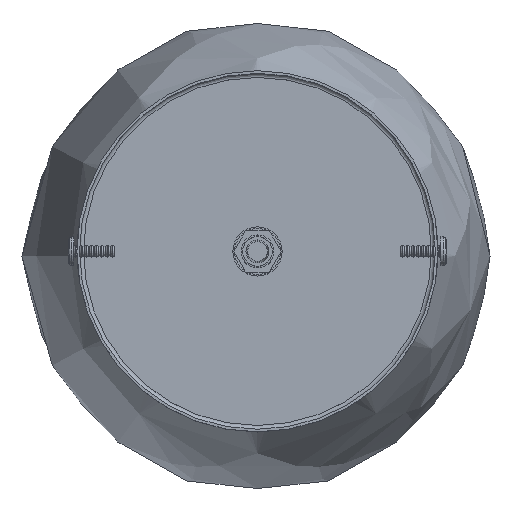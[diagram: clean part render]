
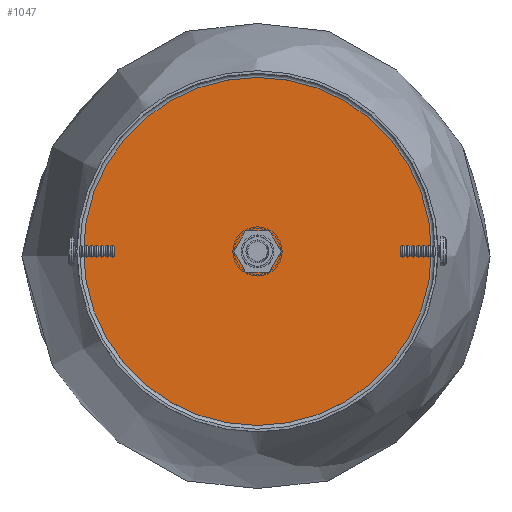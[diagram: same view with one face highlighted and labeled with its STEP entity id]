
A CAD part, top view. The second image highlights one B-rep face of the part: STEP entity #1047.
In plain terms, the highlighted planar face has unit normal (0, 0, 1).
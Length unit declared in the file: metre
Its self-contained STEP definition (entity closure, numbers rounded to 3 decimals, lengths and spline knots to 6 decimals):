
#1047 = ADVANCED_FACE( '', ( #1718, #1719 ), #1720, .T. );
#1718 = FACE_OUTER_BOUND( '', #2764, .T. );
#1719 = FACE_BOUND( '', #2765, .T. );
#1720 = PLANE( '', #2766 );
#2764 = EDGE_LOOP( '', ( #4101 ) );
#2765 = EDGE_LOOP( '', ( #4102 ) );
#2766 = AXIS2_PLACEMENT_3D( '', #4103, #4104, #4105 );
#4101 = ORIENTED_EDGE( '', *, *, #5075, .F. );
#4102 = ORIENTED_EDGE( '', *, *, #5076, .T. );
#4103 = CARTESIAN_POINT( '', ( -0.029, 0., -0.0252 ) );
#4104 = DIRECTION( '', ( 0., 0., 1. ) );
#4105 = DIRECTION( '', ( 1., 0., 0. ) );
#5075 = EDGE_CURVE( '', #5639, #5639, #5640, .T. );
#5076 = EDGE_CURVE( '', #5641, #5641, #5642, .F. );
#5639 = VERTEX_POINT( '', #6861 );
#5640 = CIRCLE( '', #6862, 0.053 );
#5641 = VERTEX_POINT( '', #6863 );
#5642 = CIRCLE( '', #6864, 0.005 );
#6861 = CARTESIAN_POINT( '', ( -0.053, 0., -0.0252 ) );
#6862 = AXIS2_PLACEMENT_3D( '', #7903, #7904, #7905 );
#6863 = CARTESIAN_POINT( '', ( 0.005, 0., -0.0252 ) );
#6864 = AXIS2_PLACEMENT_3D( '', #7906, #7907, #7908 );
#7903 = CARTESIAN_POINT( '', ( 0., 0., -0.0252 ) );
#7904 = DIRECTION( '', ( 0., 0., -1. ) );
#7905 = DIRECTION( '', ( -1., 0., 0. ) );
#7906 = CARTESIAN_POINT( '', ( 0., 0., -0.0252 ) );
#7907 = DIRECTION( '', ( 0., 0., 1. ) );
#7908 = DIRECTION( '', ( 1., 0., 0. ) );
